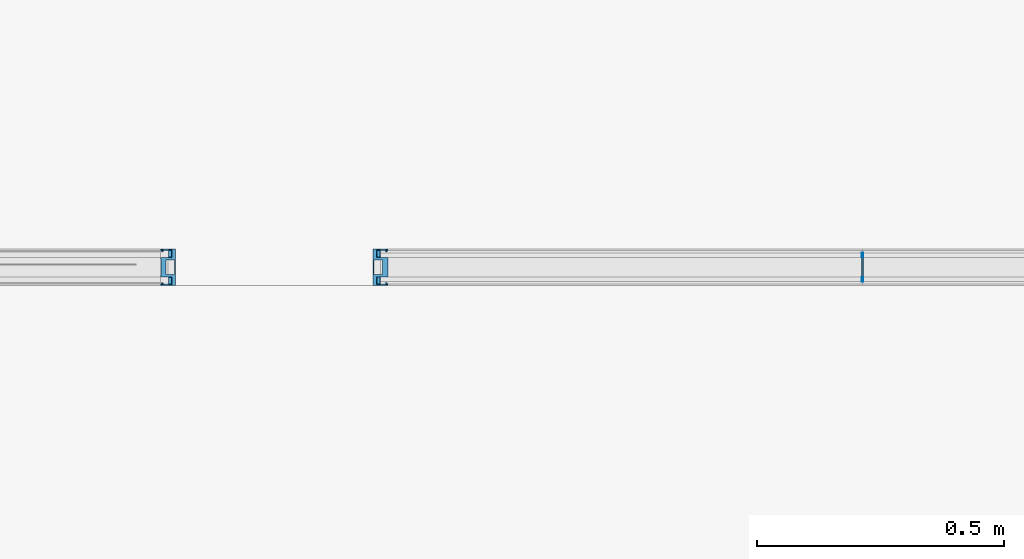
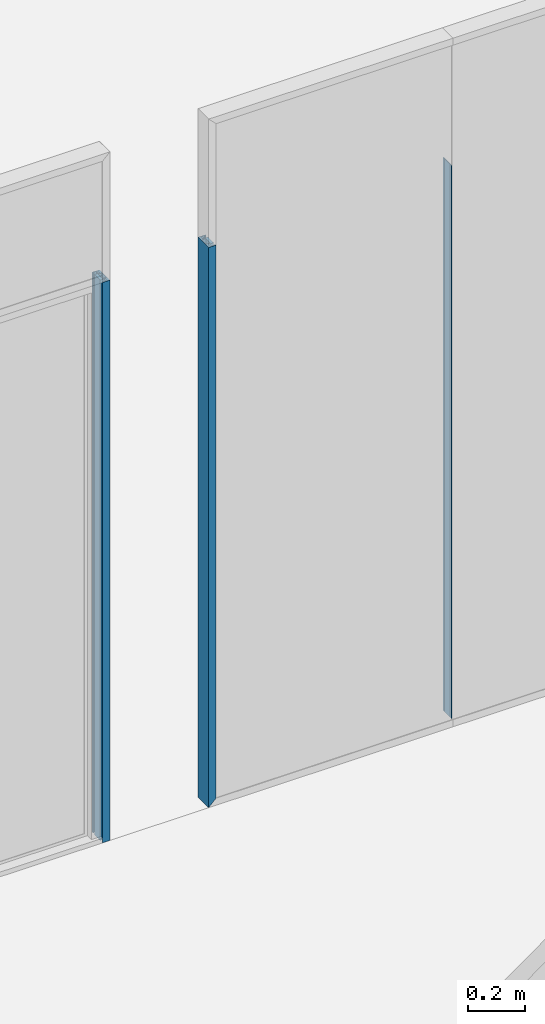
# One storey, part 19 of 62: 6 building element parts, 5 elements without a shape of their own.
"""IFC2X3 building model written with IfcOpenShell, lengths in millimetres."""

from ifc_helpers import new_model, entity, si_unit, converted_unit, derived_unit, money_unit, direction, frame, origin_with_axes, place, context, subcontext, project, spatial, faceted_brep, source, transform, mapped, material, type_object, element, aggregate, save


model = new_model("IFC2X3")

# Units and contexts
model_context = context("Model", 3, precision=0.01, world=origin_with_axes(), true_north=direction((0.0, 1.0)))
body_context = subcontext(model_context, "Body", "Model", "MODEL_VIEW")
ifc_project = project(units=[si_unit("LENGTHUNIT", "METRE", prefix="MILLI"), si_unit("AREAUNIT", "SQUARE_METRE"), si_unit("VOLUMEUNIT", "CUBIC_METRE"), converted_unit("PLANEANGLEUNIT", "DEGREE", entity("IfcPlaneAngleMeasure", 0.0174532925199), si_unit("PLANEANGLEUNIT", "RADIAN"), dimensions=[0, 0, 0, 0, 0, 0, 0]), si_unit("SOLIDANGLEUNIT", "STERADIAN"), money_unit("EUR"), converted_unit("TIMEUNIT", "Year", entity("IfcTimeMeasure", 31556926.0), si_unit("TIMEUNIT", "SECOND"), dimensions=[0, 0, 1, 0, 0, 0, 0]), si_unit("MASSUNIT", "GRAM", prefix="KILO"), si_unit("THERMODYNAMICTEMPERATUREUNIT", "DEGREE_CELSIUS"), si_unit("LUMINOUSINTENSITYUNIT", "LUMEN"), si_unit("ENERGYUNIT", "JOULE", prefix="MEGA"), derived_unit("THERMALCONDUCTANCEUNIT", [(si_unit("POWERUNIT", "WATT"), 1), (si_unit("LENGTHUNIT", "METRE"), -1), (si_unit("THERMODYNAMICTEMPERATUREUNIT", "KELVIN"), -1)]), derived_unit("SPECIFICHEATCAPACITYUNIT", [(si_unit("ENERGYUNIT", "JOULE"), 1), (si_unit("MASSUNIT", "GRAM", prefix="KILO"), -1), (si_unit("THERMODYNAMICTEMPERATUREUNIT", "KELVIN"), -1)]), derived_unit("MASSDENSITYUNIT", [(si_unit("MASSUNIT", "GRAM", prefix="KILO"), 1), (si_unit("VOLUMEUNIT", "CUBIC_METRE"), -1)])], contexts=[model_context])

# Site, building, storey
site_placement = place(None, origin_with_axes())
site = spatial("IfcSite", under=ifc_project, at=site_placement, Name="Puškini 31, Narva", CompositionType="ELEMENT")
building_placement = place(site_placement, origin_with_axes())
building = spatial("IfcBuilding", under=site, at=building_placement, Name="Narva Riigigümnaasium", CompositionType="ELEMENT")
storey_placement = place(building_placement, frame((0.0, 0.0, 660.0), z_axis=(0.0, 0.0, 1.0), x_axis=(1.0, 0.0, 0.0)))
storey = spatial("IfcBuildingStorey", under=building, at=storey_placement, Name="2.korrus +0.66", CompositionType="ELEMENT", Elevation=660.0)

# Curtain wall, members, building element parts
curtain_wall_type = type_object("IfcCurtainWallType", Name="Curtain Wall Type", PredefinedType="NOTDEFINED")
curtain_wall_1_placement = place(storey_placement, frame((45089.2571373, 223837.000216, -1.99739158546e-06), z_axis=(0.0, 0.0, 1.0), x_axis=(1.0, 0.0, 0.0)))
curtain_wall_1 = element("IfcCurtainWall", 1, at=curtain_wall_1_placement, inside=storey, type_object=curtain_wall_type, Name="G-SKLF-52")
member_type_1 = type_object("IfcMemberType", Name="30 x 37", PredefinedType="MULLION")
member_1_placement = place(curtain_wall_1_placement, frame((-2537.25717987, 0.0, 0.0), z_axis=(0.0, 0.0, 1.0), x_axis=(1.0, 0.0, 0.0)))
member_1 = element("IfcMember", 2, at=member_1_placement, type_object=member_type_1, Name="G-SKLF-56-raam", ObjectType="MULLION")
ifc_material_1 = material(Name="Klaasvill")
shared_shape_1 = source(origin_with_axes(), body_context, "Body", "Brep", [
    faceted_brep([(13.8499999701, 20.000000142, 13.8500005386), (13.8499999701, 20.000000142, 2400.00003102), (7.49999990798, 20.000000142, 2400.00003102), (7.49999990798, 20.000000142, 7.5000002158), (13.8499999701, 34.0161444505, 13.8500005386), (13.8499999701, 34.0161444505, 2400.00003102), (7.49999990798, 34.0161444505, 2400.00003102), (7.49999990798, 34.0161444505, 7.5000002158)], [[[0, 1, 2, 3]], [[4, 5, 1, 0]], [[2, 1, 5, 6]], [[3, 2, 6, 7]], [[3, 7, 4, 0]], [[7, 6, 5, 4]]]),
    faceted_brep([(25.004489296, 32.0307503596, 25.0044903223), (25.004489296, 32.0307503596, 2400.00003102), (24.987414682, 34.0161444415, 2400.00003102), (24.987414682, 34.0161444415, 24.9874157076), (25.742237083, 31.2930025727, 25.7422381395), (25.742237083, 31.2930025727, 2400.00003102), (26.7500193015, 31.0229681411, 2400.00003102), (27.75780152, 31.2930025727, 2400.00003102), (28.4955493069, 32.0307503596, 2400.00003102), (28.7655837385, 33.0385325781, 2400.00003102), (28.5126239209, 34.0161444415, 2400.00003102), (28.5126239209, 34.0161444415, 28.5126250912), (28.7655837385, 33.0385325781, 28.7655849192), (28.4955493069, 32.0307503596, 28.4955504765), (27.75780152, 31.2930025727, 27.7578026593), (26.7500193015, 31.0229681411, 26.7500203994)], [[[0, 1, 2, 3]], [[4, 5, 1, 0]], [[2, 1, 5, 6, 7, 8, 9, 10]], [[3, 2, 10, 11]], [[3, 11, 12, 13, 14, 15, 4, 0]], [[15, 6, 5, 4]], [[14, 7, 6, 15]], [[13, 8, 7, 14]], [[12, 9, 8, 13]], [[11, 10, 9, 12]]]),
    faceted_brep([(7.49999990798, -34.0161445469, 7.5000002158), (7.49999990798, -34.0161445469, 2400.00003102), (7.49999990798, -19.9999997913, 2400.00003102), (7.49999990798, -19.9999997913, 7.5000002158), (13.8499999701, -34.0161445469, 13.8500005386), (13.8499999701, -34.0161445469, 2400.00003102), (13.8499999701, -19.9999997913, 2400.00003102), (13.8499999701, -19.9999997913, 13.8500005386)], [[[0, 1, 2, 3]], [[4, 5, 1, 0]], [[2, 1, 5, 6]], [[3, 2, 6, 7]], [[3, 7, 4, 0]], [[7, 6, 5, 4]]]),
    faceted_brep([(24.987414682, -34.0161444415, 24.9874157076), (24.987414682, -34.0161444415, 2400.00003102), (25.004489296, -32.0307503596, 2400.00003102), (25.004489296, -32.0307503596, 25.0044903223), (28.5126239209, -34.0161444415, 28.5126250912), (28.5126239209, -34.0161444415, 2400.00003102), (28.7655837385, -33.0385325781, 2400.00003102), (28.4955493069, -32.0307503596, 2400.00003102), (27.75780152, -31.2930025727, 2400.00003102), (26.7500193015, -31.0229681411, 2400.00003102), (25.742237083, -31.2930025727, 2400.00003102), (25.742237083, -31.2930025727, 25.7422381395), (26.7500193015, -31.0229681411, 26.7500203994), (27.75780152, -31.2930025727, 27.7578026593), (28.4955493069, -32.0307503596, 28.4955504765), (28.7655837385, -33.0385325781, 28.7655849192)], [[[0, 1, 2, 3]], [[4, 5, 1, 0]], [[2, 1, 5, 6, 7, 8, 9, 10]], [[3, 2, 10, 11]], [[3, 11, 12, 13, 14, 15, 4, 0]], [[15, 6, 5, 4]], [[14, 7, 6, 15]], [[13, 8, 7, 14]], [[12, 9, 8, 13]], [[11, 10, 9, 12]]]),
])
building_element_part_1_placement = place(member_1_placement, origin_with_axes())
building_element_part_1 = element("IfcBuildingElementPart", 3, at=building_element_part_1_placement, material=ifc_material_1, Name="Klaasvill", context=body_context, shape_type="MappedRepresentation", body=[
    mapped(shared_shape_1, transform((0.0, 0.0, 0.0))),
])
ifc_material_2 = material(Name="Teras RAL7012")
shared_shape_2 = source(origin_with_axes(), body_context, "Body", "Brep", [
    faceted_brep([(29.5999996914, -17.0000000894, 29.6000009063), (29.5999996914, -17.0000000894, 2400.00003102), (0.0, -17.0000000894, 2400.00003102), (0.0, -17.0000000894, 0.0), (29.5999996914, 17.0000000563, 29.6000009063), (29.5999996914, 17.0000000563, 2400.00003102), (0.0, 17.0000000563, 2400.00003102), (1.9999999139, 15.0000001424, 2400.00003102), (18.7999996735, 15.0000001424, 2400.00003102), (18.7999996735, -15.0000001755, 2400.00003102), (1.9999999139, -15.0000001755, 2400.00003102), (0.0, 17.0000000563, 0.0), (1.9999999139, 15.0000001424, 1.99999999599), (1.9999999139, -15.0000001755, 1.99999999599), (18.7999996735, -15.0000001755, 18.8000004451), (18.7999996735, 15.0000001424, 18.8000004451)], [[[0, 1, 2, 3]], [[4, 5, 1, 0]], [[2, 1, 5, 6], [7, 8, 9, 10]], [[3, 2, 6, 11]], [[3, 11, 4, 0], [12, 13, 14, 15]], [[11, 6, 5, 4]], [[15, 8, 7, 12]], [[14, 9, 8, 15]], [[13, 10, 9, 14]], [[12, 7, 10, 13]]]),
    faceted_brep([(29.5999996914, 17.0000000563, 29.6000009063), (29.5999996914, 17.0000000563, 2400.00003102), (0.0, 17.0, 2400.00003102), (0.0, 17.0, 0.0), (30.0000193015, 17.0, 30.0000205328), (30.0000193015, 17.0, 2400.00003102), (30.0000193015, 20.0, 2400.00003102), (13.8499999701, 20.000000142, 2400.00003102), (7.49999999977, 20.0, 2400.00003102), (7.49999999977, 34.0161444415, 2400.00003102), (13.8499999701, 34.0161444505, 2400.00003102), (24.987414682, 34.0161444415, 2400.00003102), (28.5126239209, 34.0161444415, 2400.00003102), (30.0000193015, 34.0161444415, 2400.00003102), (30.0000193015, 37.0, 2400.00003102), (0.0, 37.0, 2400.00003102), (0.0, 37.0, 0.0), (30.0000193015, 37.0, 30.0000205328), (30.0000193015, 34.0161444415, 30.0000205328), (28.5126239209, 34.0161444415, 28.5126250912), (24.987414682, 34.0161444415, 24.9874157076), (13.8499999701, 34.0161444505, 13.8500005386), (7.49999999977, 34.0161444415, 7.50000030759), (7.49999999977, 20.0, 7.50000030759), (13.8499999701, 20.000000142, 13.8500005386), (30.0000193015, 20.0, 30.0000205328)], [[[0, 1, 2, 3]], [[4, 5, 1, 0]], [[2, 1, 5, 6, 7, 8, 9, 10, 11, 12, 13, 14, 15]], [[3, 2, 15, 16]], [[3, 16, 17, 18, 19, 20, 21, 22, 23, 24, 25, 4, 0]], [[25, 6, 5, 4]], [[24, 7, 6, 25]], [[23, 8, 7, 24]], [[22, 9, 8, 23]], [[21, 10, 9, 22]], [[20, 11, 10, 21]], [[19, 12, 11, 20]], [[18, 13, 12, 19]], [[17, 14, 13, 18]], [[16, 15, 14, 17]]]),
    faceted_brep([(0.0, -37.0, 0.0), (0.0, -37.0, 2400.00003102), (0.0, -17.0, 2400.00003102), (0.0, -17.0, 0.0), (30.0000193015, -37.0, 30.0000205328), (30.0000193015, -37.0, 2400.00003102), (30.0000193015, -34.0161444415, 2400.00003102), (28.5126239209, -34.0161444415, 2400.00003102), (24.987414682, -34.0161444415, 2400.00003102), (13.8499999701, -34.0161445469, 2400.00003102), (7.49999999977, -34.0161444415, 2400.00003102), (7.49999999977, -20.0, 2400.00003102), (13.8499999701, -19.9999997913, 2400.00003102), (30.0000193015, -20.0, 2400.00003102), (30.0000193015, -17.0, 2400.00003102), (29.5999996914, -17.0000000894, 2400.00003102), (29.5999996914, -17.0000000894, 29.6000009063), (30.0000193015, -17.0, 30.0000205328), (30.0000193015, -20.0, 30.0000205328), (13.8499999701, -19.9999997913, 13.8500005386), (7.49999999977, -20.0, 7.50000030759), (7.49999999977, -34.0161444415, 7.50000030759), (13.8499999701, -34.0161445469, 13.8500005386), (24.987414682, -34.0161444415, 24.9874157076), (28.5126239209, -34.0161444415, 28.5126250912), (30.0000193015, -34.0161444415, 30.0000205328)], [[[0, 1, 2, 3]], [[4, 5, 1, 0]], [[2, 1, 5, 6, 7, 8, 9, 10, 11, 12, 13, 14, 15]], [[3, 2, 15, 16]], [[3, 16, 17, 18, 19, 20, 21, 22, 23, 24, 25, 4, 0]], [[25, 6, 5, 4]], [[24, 7, 6, 25]], [[23, 8, 7, 24]], [[22, 9, 8, 23]], [[21, 10, 9, 22]], [[20, 11, 10, 21]], [[19, 12, 11, 20]], [[18, 13, 12, 19]], [[17, 14, 13, 18]], [[16, 15, 14, 17]]]),
])
building_element_part_2_placement = place(member_1_placement, origin_with_axes())
building_element_part_2 = element("IfcBuildingElementPart", 4, at=building_element_part_2_placement, material=ifc_material_2, Name="Teras RAL7012", context=body_context, shape_type="MappedRepresentation", body=[
    mapped(shared_shape_2, transform((0.0, 0.0, 0.0))),
])
aggregate(member_1, [building_element_part_1, building_element_part_2])
member_type_2 = type_object("IfcMemberType", Name="3 x -35", PredefinedType="MULLION")
member_2_placement = place(curtain_wall_1_placement, frame((-1547.65714373, 0.0, 0.0), z_axis=(0.0, 0.0, 1.0), x_axis=(1.0, 0.0, 0.0)))
member_2 = element("IfcMember", 5, at=member_2_placement, type_object=member_type_2, Name="G-SKLF-52-raam", ObjectType="MULLION")
aggregate(curtain_wall_1, [member_2, member_1])
ifc_material_3 = material(Name="Klaas")
shared_shape_3 = source(origin_with_axes(), body_context, "Body", "Brep", [
    faceted_brep([(1.5000138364, 20.0064497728, 30.0000193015), (1.5000138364, 20.0064497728, 2400.0), (-1.4999861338, 20.0064497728, 2400.0), (-1.4999861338, 20.0064497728, 30.0000193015), (1.5000138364, 29.0064496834, 30.0000193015), (1.5000138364, 29.0064496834, 2400.0), (-1.4999861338, 29.0064496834, 2400.0), (-1.4999861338, 29.0064496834, 30.0000193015)], [[[0, 1, 2, 3]], [[4, 5, 1, 0]], [[2, 1, 5, 6]], [[3, 2, 6, 7]], [[3, 7, 4, 0]], [[7, 6, 5, 4]]]),
    faceted_brep([(-1.4999861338, -28.9935503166, 30.0000193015), (-1.4999861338, -28.9935503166, 2400.0), (-1.4999861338, -19.993550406, 2400.0), (-1.4999861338, -19.993550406, 30.0000193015), (1.5000138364, -28.9935503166, 30.0000193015), (1.5000138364, -28.9935503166, 2400.0), (1.5000138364, -19.993550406, 2400.0), (1.5000138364, -19.993550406, 30.0000193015)], [[[0, 1, 2, 3]], [[4, 5, 1, 0]], [[2, 1, 5, 6]], [[3, 2, 6, 7]], [[3, 7, 4, 0]], [[7, 6, 5, 4]]]),
])
building_element_part_3_placement = place(member_2_placement, origin_with_axes())
building_element_part_3 = element("IfcBuildingElementPart", 6, at=building_element_part_3_placement, material=ifc_material_3, Name="Klaas", context=body_context, shape_type="MappedRepresentation", body=[
    mapped(shared_shape_3, transform((0.0, 0.0, 0.0))),
])
ifc_material_4 = material(Name="VKR-06_Õhkvahe")
shared_shape_4 = source(origin_with_axes(), body_context, "Body", "Brep", [
    faceted_brep([(-1.4999861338, -19.9935503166, 30.0000193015), (-1.4999861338, -19.9935503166, 2400.0), (-1.4999861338, 20.0064496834, 2400.0), (-1.4999861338, 20.0064496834, 30.0000193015), (1.5000138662, -19.9935503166, 30.0000193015), (1.5000138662, -19.9935503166, 2400.0), (1.5000138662, 20.0064496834, 2400.0), (1.5000138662, 20.0064496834, 30.0000193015)], [[[0, 1, 2, 3]], [[4, 5, 1, 0]], [[2, 1, 5, 6]], [[3, 2, 6, 7]], [[3, 7, 4, 0]], [[7, 6, 5, 4]]]),
])
building_element_part_4_placement = place(member_2_placement, origin_with_axes())
building_element_part_4 = element("IfcBuildingElementPart", 7, at=building_element_part_4_placement, material=ifc_material_4, Name="VKR-06_Õhkvahe", context=body_context, shape_type="MappedRepresentation", body=[
    mapped(shared_shape_4, transform((0.0, 0.0, 0.0))),
])
aggregate(member_2, [building_element_part_3, building_element_part_4])

# Curtain wall, member, building element parts
curtain_wall_2_placement = place(storey_placement, frame((41241.6, 223837.000007, -1.99739158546e-06), z_axis=(0.0, 0.0, 1.0), x_axis=(1.0, 0.0, 0.0)))
curtain_wall_2 = element("IfcCurtainWall", 8, at=curtain_wall_2_placement, inside=storey, type_object=curtain_wall_type, Name="G-SKLF-53")
member_type_3 = type_object("IfcMemberType", Name="Boundary Frame 30 x 37", PredefinedType="MULLION")
member_3_placement = place(curtain_wall_2_placement, frame((910.4, 0.0, 0.0), z_axis=(0.0, 0.0, 1.0), x_axis=(-1.0, 0.0, 0.0)))
member_3 = element("IfcMember", 9, at=member_3_placement, type_object=member_type_3, Name="G-SKLF-86-raam", ObjectType="MULLION")
aggregate(curtain_wall_2, [member_3])
shared_shape_5 = source(origin_with_axes(), body_context, "Body", "Brep", [
    faceted_brep([(-7.49999990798, 20.000000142, 0.0), (-7.49999990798, 20.000000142, 2400.00003041), (-13.8499999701, 20.000000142, 2400.00003041), (-13.8499999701, 20.000000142, 0.0), (-7.49999990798, 34.0161444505, 0.0), (-7.49999990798, 34.0161444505, 2400.00003041), (-13.8499999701, 34.0161444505, 2400.00003041), (-13.8499999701, 34.0161444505, 0.0)], [[[0, 1, 2, 3]], [[4, 5, 1, 0]], [[1, 5, 6, 2]], [[3, 2, 6, 7]], [[0, 3, 7, 4]], [[7, 6, 5, 4]]]),
    faceted_brep([(-24.987414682, 34.0161444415, 0.0), (-24.987414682, 34.0161444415, 2400.00003041), (-25.004489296, 32.0307503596, 2400.00003041), (-25.004489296, 32.0307503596, 0.0), (-28.5126239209, 34.0161444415, 0.0), (-28.5126239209, 34.0161444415, 2400.00003041), (-28.7655837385, 33.0385325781, 2400.00003041), (-28.4955493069, 32.0307503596, 2400.00003041), (-27.75780152, 31.2930025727, 2400.00003041), (-26.7500193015, 31.0229681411, 2400.00003041), (-25.742237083, 31.2930025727, 2400.00003041), (-25.742237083, 31.2930025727, 0.0), (-26.7500193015, 31.0229681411, 0.0), (-27.75780152, 31.2930025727, 0.0), (-28.4955493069, 32.0307503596, 0.0), (-28.7655837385, 33.0385325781, 0.0)], [[[0, 1, 2, 3]], [[4, 5, 1, 0]], [[1, 5, 6, 7, 8, 9, 10, 2]], [[3, 2, 10, 11]], [[0, 3, 11, 12, 13, 14, 15, 4]], [[15, 6, 5, 4]], [[14, 7, 6, 15]], [[13, 8, 7, 14]], [[12, 9, 8, 13]], [[11, 10, 9, 12]]]),
    faceted_brep([(-7.49999990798, -19.9999997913, 0.0), (-7.49999990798, -19.9999997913, 2400.00003041), (-7.49999990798, -34.0161445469, 2400.00003041), (-7.49999990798, -34.0161445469, 0.0), (-13.8499999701, -19.9999997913, 0.0), (-13.8499999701, -19.9999997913, 2400.00003041), (-13.8499999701, -34.0161445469, 2400.00003041), (-13.8499999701, -34.0161445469, 0.0)], [[[0, 1, 2, 3]], [[4, 5, 1, 0]], [[1, 5, 6, 2]], [[3, 2, 6, 7]], [[0, 3, 7, 4]], [[7, 6, 5, 4]]]),
    faceted_brep([(-25.004489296, -32.0307503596, 0.0), (-25.004489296, -32.0307503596, 2400.00003041), (-24.987414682, -34.0161444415, 2400.00003041), (-24.987414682, -34.0161444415, 0.0), (-25.742237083, -31.2930025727, 0.0), (-25.742237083, -31.2930025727, 2400.00003041), (-26.7500193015, -31.0229681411, 2400.00003041), (-27.75780152, -31.2930025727, 2400.00003041), (-28.4955493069, -32.0307503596, 2400.00003041), (-28.7655837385, -33.0385325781, 2400.00003041), (-28.5126239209, -34.0161444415, 2400.00003041), (-28.5126239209, -34.0161444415, 0.0), (-28.7655837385, -33.0385325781, 0.0), (-28.4955493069, -32.0307503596, 0.0), (-27.75780152, -31.2930025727, 0.0), (-26.7500193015, -31.0229681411, 0.0)], [[[0, 1, 2, 3]], [[4, 5, 1, 0]], [[1, 5, 6, 7, 8, 9, 10, 2]], [[3, 2, 10, 11]], [[0, 3, 11, 12, 13, 14, 15, 4]], [[15, 6, 5, 4]], [[14, 7, 6, 15]], [[13, 8, 7, 14]], [[12, 9, 8, 13]], [[11, 10, 9, 12]]]),
])
building_element_part_5_placement = place(member_3_placement, origin_with_axes())
building_element_part_5 = element("IfcBuildingElementPart", 10, at=building_element_part_5_placement, material=ifc_material_1, Name="Klaasvill", context=body_context, shape_type="MappedRepresentation", body=[
    mapped(shared_shape_5, transform((0.0, 0.0, 0.0), x_axis=(-1.0, 0.0, 0.0), y_axis=(0.0, -1.0, 0.0), z_axis=(0.0, 0.0, 1.0))),
])
shared_shape_6 = source(origin_with_axes(), body_context, "Body", "Brep", [
    faceted_brep([(0.0, -17.0000000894, 0.0), (0.0, -17.0000000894, 2400.00003041), (-29.5999996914, -17.0000000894, 2400.00003041), (-29.5999996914, -17.0000000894, 0.0), (0.0, 17.0000000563, 0.0), (0.0, 17.0000000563, 2400.00003041), (-29.5999996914, 17.0000000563, 2400.00003041), (-1.9999999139, 15.0000001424, 2400.00003041), (-1.9999999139, -15.0000001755, 2400.00003041), (-18.7999996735, -15.0000001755, 2400.00003041), (-18.7999996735, 15.0000001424, 2400.00003041), (-29.5999996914, 17.0000000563, 0.0), (-1.9999999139, 15.0000001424, 0.0), (-18.7999996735, 15.0000001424, 0.0), (-18.7999996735, -15.0000001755, 0.0), (-1.9999999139, -15.0000001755, 0.0)], [[[0, 1, 2, 3]], [[4, 5, 1, 0]], [[1, 5, 6, 2], [7, 8, 9, 10]], [[3, 2, 6, 11]], [[0, 3, 11, 4], [12, 13, 14, 15]], [[11, 6, 5, 4]], [[15, 8, 7, 12]], [[14, 9, 8, 15]], [[13, 10, 9, 14]], [[12, 7, 10, 13]]]),
    faceted_brep([(0.0, 17.0, 0.0), (0.0, 17.0, 2400.00003041), (-29.5999996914, 17.0000000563, 2400.00003041), (-29.5999996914, 17.0000000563, 0.0), (0.0, 37.0, 0.0), (0.0, 37.0, 2400.00003041), (-30.0000193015, 37.0, 2400.00003041), (-30.0000193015, 34.0161444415, 2400.00003041), (-28.5126239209, 34.0161444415, 2400.00003041), (-24.987414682, 34.0161444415, 2400.00003041), (-13.8499999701, 34.0161444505, 2400.00003041), (-7.49999999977, 34.0161444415, 2400.00003041), (-7.49999999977, 20.0, 2400.00003041), (-13.8499999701, 20.000000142, 2400.00003041), (-30.0000193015, 20.0, 2400.00003041), (-30.0000193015, 17.0, 2400.00003041), (-30.0000193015, 17.0, 0.0), (-30.0000193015, 20.0, 0.0), (-13.8499999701, 20.000000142, 0.0), (-7.49999999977, 20.0, 0.0), (-7.49999999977, 34.0161444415, 0.0), (-13.8499999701, 34.0161444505, 0.0), (-24.987414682, 34.0161444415, 0.0), (-28.5126239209, 34.0161444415, 0.0), (-30.0000193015, 34.0161444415, 0.0), (-30.0000193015, 37.0, 0.0)], [[[0, 1, 2, 3]], [[4, 5, 1, 0]], [[1, 5, 6, 7, 8, 9, 10, 11, 12, 13, 14, 15, 2]], [[3, 2, 15, 16]], [[0, 3, 16, 17, 18, 19, 20, 21, 22, 23, 24, 25, 4]], [[25, 6, 5, 4]], [[24, 7, 6, 25]], [[23, 8, 7, 24]], [[22, 9, 8, 23]], [[21, 10, 9, 22]], [[20, 11, 10, 21]], [[19, 12, 11, 20]], [[18, 13, 12, 19]], [[17, 14, 13, 18]], [[16, 15, 14, 17]]]),
    faceted_brep([(0.0, -17.0, 0.0), (0.0, -17.0, 2400.00003041), (0.0, -37.0, 2400.00003041), (0.0, -37.0, 0.0), (-29.5999996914, -17.0000000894, 0.0), (-29.5999996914, -17.0000000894, 2400.00003041), (-30.0000193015, -17.0, 2400.00003041), (-30.0000193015, -20.0, 2400.00003041), (-13.8499999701, -19.9999997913, 2400.00003041), (-7.49999999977, -20.0, 2400.00003041), (-7.49999999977, -34.0161444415, 2400.00003041), (-13.8499999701, -34.0161445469, 2400.00003041), (-24.987414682, -34.0161444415, 2400.00003041), (-28.5126239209, -34.0161444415, 2400.00003041), (-30.0000193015, -34.0161444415, 2400.00003041), (-30.0000193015, -37.0, 2400.00003041), (-30.0000193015, -37.0, 0.0), (-30.0000193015, -34.0161444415, 0.0), (-28.5126239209, -34.0161444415, 0.0), (-24.987414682, -34.0161444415, 0.0), (-13.8499999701, -34.0161445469, 0.0), (-7.49999999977, -34.0161444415, 0.0), (-7.49999999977, -20.0, 0.0), (-13.8499999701, -19.9999997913, 0.0), (-30.0000193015, -20.0, 0.0), (-30.0000193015, -17.0, 0.0)], [[[0, 1, 2, 3]], [[4, 5, 1, 0]], [[1, 5, 6, 7, 8, 9, 10, 11, 12, 13, 14, 15, 2]], [[3, 2, 15, 16]], [[0, 3, 16, 17, 18, 19, 20, 21, 22, 23, 24, 25, 4]], [[25, 6, 5, 4]], [[24, 7, 6, 25]], [[23, 8, 7, 24]], [[22, 9, 8, 23]], [[21, 10, 9, 22]], [[20, 11, 10, 21]], [[19, 12, 11, 20]], [[18, 13, 12, 19]], [[17, 14, 13, 18]], [[16, 15, 14, 17]]]),
])
building_element_part_6_placement = place(member_3_placement, origin_with_axes())
building_element_part_6 = element("IfcBuildingElementPart", 11, at=building_element_part_6_placement, material=ifc_material_2, Name="Teras RAL7012", context=body_context, shape_type="MappedRepresentation", body=[
    mapped(shared_shape_6, transform((0.0, 0.0, 0.0), x_axis=(-1.0, 0.0, 0.0), y_axis=(0.0, -1.0, 0.0), z_axis=(0.0, 0.0, 1.0))),
])
aggregate(member_3, [building_element_part_5, building_element_part_6])

save(model, "model.ifc")
